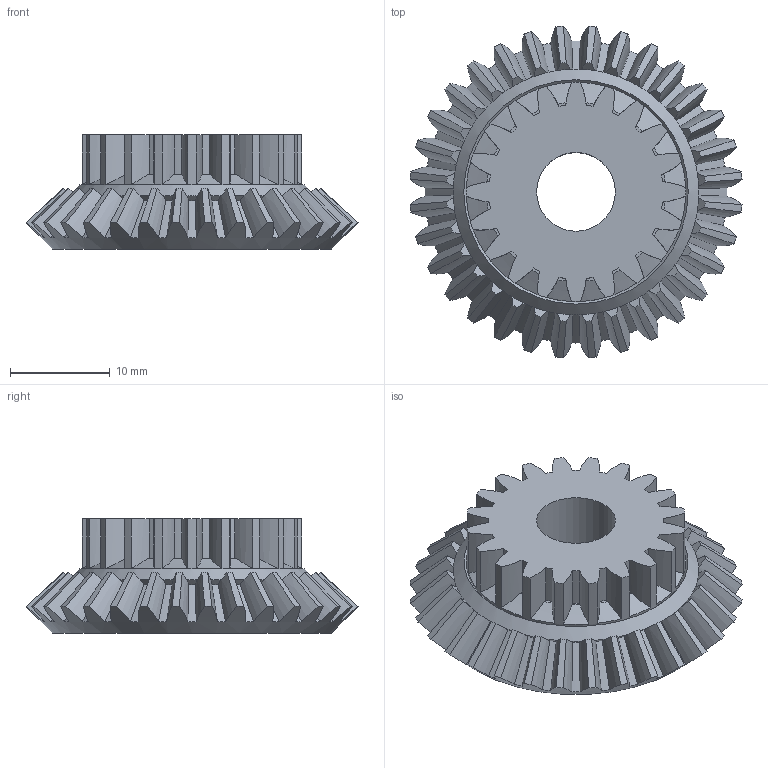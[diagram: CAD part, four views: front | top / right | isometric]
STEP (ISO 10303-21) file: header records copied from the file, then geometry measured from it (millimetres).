
FILE_DESCRIPTION(/* description */ (''),/* implementation_level */ '2;1');
FILE_NAME(/* name */ '\\192.168.3.8\kumagai\Develop\CAD\NakataOmni\DriveUnitR3\BevelFinalGear_c.stp',/* time_stamp */ '2024-05-22T09:22:17+09:00',/* author */ ('kumagai'),/* organization */ (''),/* preprocessor_version */ 'ST-DEVELOPER v19',/* originating_system */ 'Autodesk Inventor 2023',/* authorisation */ '');
FILE_SCHEMA (('AUTOMOTIVE_DESIGN { 1 0 10303 214 3 1 1 }'));
Length unit declared in the file: millimetre
Products named in the file (1): BevelFinalGear_c
Bounding box: 33.32 x 33.32 x 11.5 mm (x, y, z)
Volume: 5082.2 mm3; surface area: 3117.3 mm2
Topology: 1 solids, 1 shells, 299 faces, 826 edges, 529 vertices
Faces by surface type: cone 151, bspline 64, cylinder 62, plane 22
Full cylindrical faces by diameter (mm): 7.9 x1, 22 x1
Entity records: 12520 total; most frequent: CARTESIAN_POINT 5111, ORIENTED_EDGE 1652, DIRECTION 1319, EDGE_CURVE 826, AXIS2_PLACEMENT_3D 617, VERTEX_POINT 529, CIRCLE 381, B_SPLINE_CURVE_WITH_KNOTS 360
